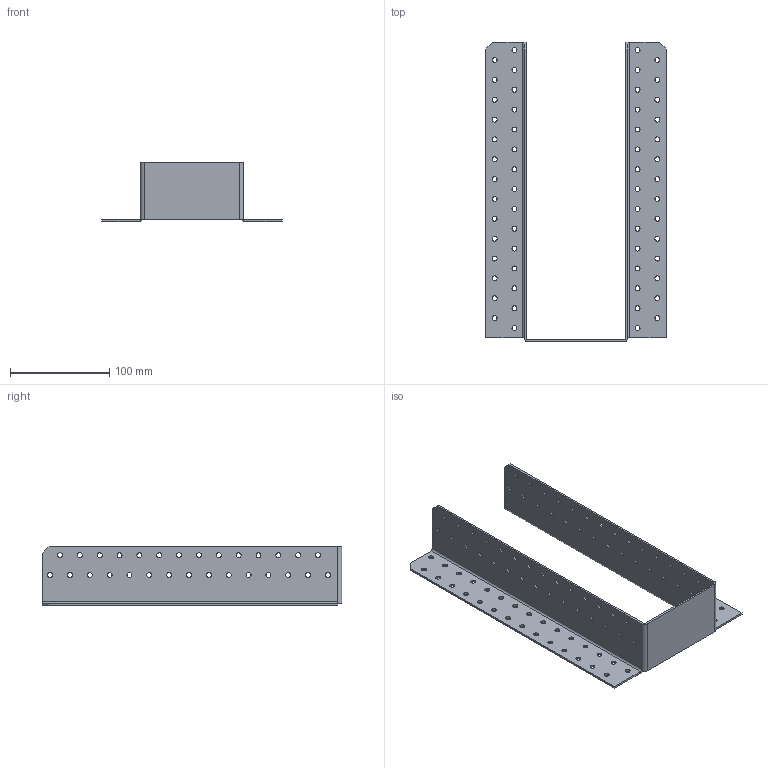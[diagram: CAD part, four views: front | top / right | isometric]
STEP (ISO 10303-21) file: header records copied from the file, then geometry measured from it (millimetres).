
FILE_DESCRIPTION (( 'STEP AP203' ), '1' );
FILE_NAME ('405032.STEP', '2021-04-17T16:05:30', ( '' ), ( '' ), 'SwSTEP 2.0', 'SolidWorks 2013', '' );
FILE_SCHEMA (( 'CONFIG_CONTROL_DESIGN' ));
Length unit declared in the file: millimetre
Products named in the file (1): 405032
Bounding box: 182 x 302 x 60 mm (x, y, z)
Volume: 123951.1 mm3; surface area: 130919.4 mm2
Topology: 1 solids, 1 shells, 276 faces, 792 edges, 518 vertices
Faces by surface type: cylinder 240, plane 36
Entity records: 9819 total; most frequent: DIRECTION 1828, CARTESIAN_POINT 1587, ORIENTED_EDGE 1584, EDGE_CURVE 792, AXIS2_PLACEMENT_3D 759, VERTEX_POINT 518, EDGE_LOOP 508, CIRCLE 482
